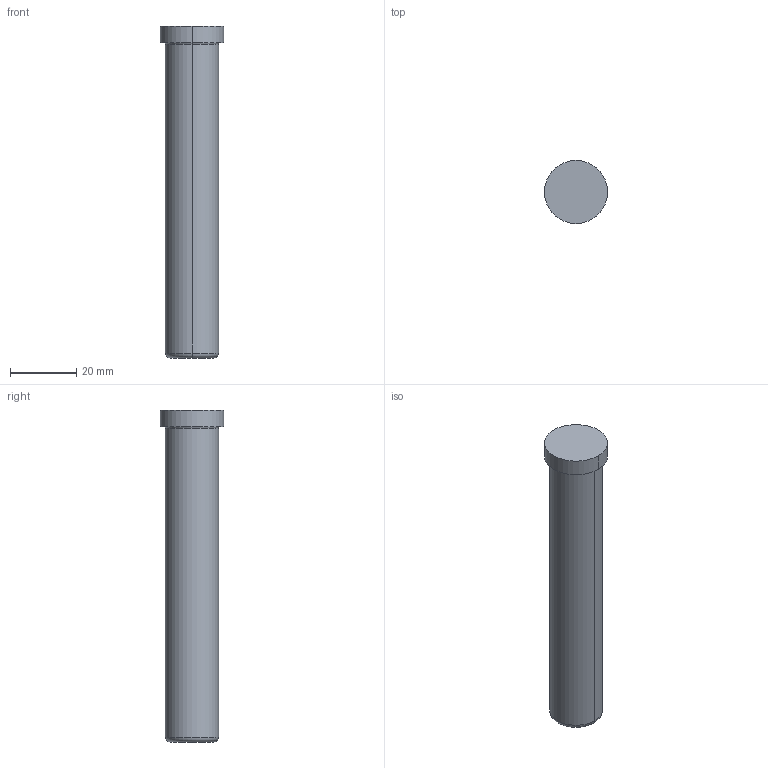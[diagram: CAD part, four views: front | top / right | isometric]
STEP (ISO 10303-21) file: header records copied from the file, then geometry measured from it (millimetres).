
FILE_DESCRIPTION(/* description */ (''),/* implementation_level */ '2;1');
FILE_NAME(/* name */ '3d_sgph16-100_00271_r00.stp',/* time_stamp */ '2011-01-10T14:11:07+09:00',/* author */ ('MISUMI'),/* organization */ (''),/* preprocessor_version */ 'ST-DEVELOPER v11',/* originating_system */ 'UGS - NX 5.0',/* authorisation */ '');
FILE_SCHEMA (('CONFIG_CONTROL_DESIGN'));
Length unit declared in the file: millimetre
Products named in the file (1): 3d_sgph16-100_00271_r00
Bounding box: 19 x 19 x 100 mm (x, y, z)
Volume: 20498 mm3; surface area: 5596.7 mm2
Topology: 1 solids, 1 shells, 11 faces, 20 edges, 12 vertices
Faces by surface type: cylinder 4, torus 4, plane 3
Entity records: 364 total; most frequent: DIRECTION 60, CARTESIAN_POINT 44, ORIENTED_EDGE 40, AXIS2_PLACEMENT_3D 28, EDGE_CURVE 20, CIRCLE 16, EDGE_LOOP 12, VERTEX_POINT 12
